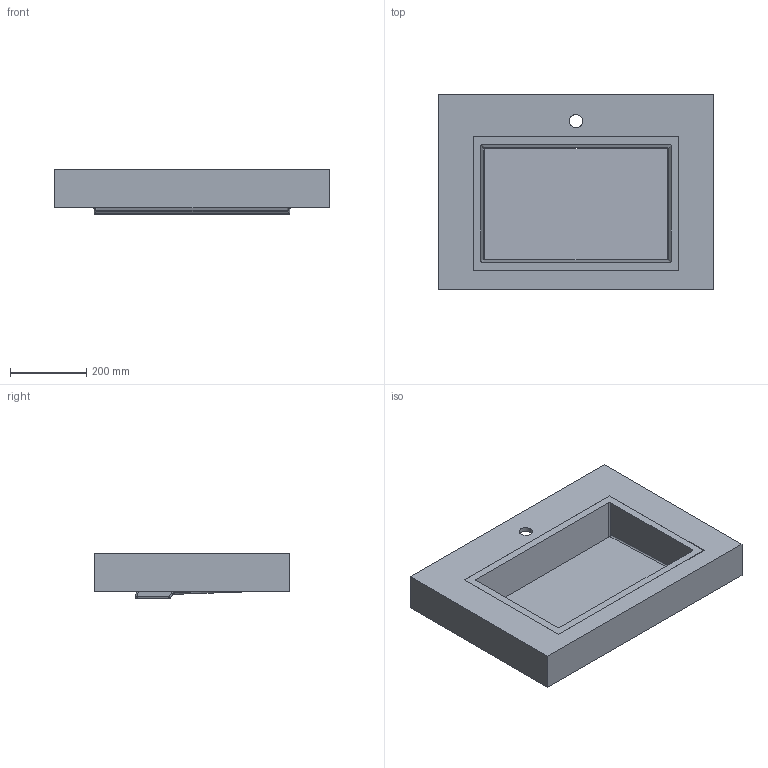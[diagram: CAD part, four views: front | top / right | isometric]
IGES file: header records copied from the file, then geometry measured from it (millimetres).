
Start section: Data from Parasolid IGES Translator 19.0.9, Copyright(c) 2006 Siemens PL M Software. All Rights Reserved.
Global section: file name: noorth-top-H 10 D 51,3 W 72_6535.igs; native system: By Siemens PLM Incorporated; preprocessor: XPlus GENERIC/IGES 19.0.9; author: Noname; organization: Noname; date: 20200603.094529; units: metre
Bounding box: 720 x 512 x 118.64 mm (x, y, z)
Volume: 8095841.4 mm3; surface area: 1417009.7 mm2
Topology: 2 solids, 2 shells, 97 faces, 235 edges, 138 vertices
Faces by surface type: plane 41, bspline 29, cylinder 27
Full cylindrical faces by diameter (mm): 34.9 x1
